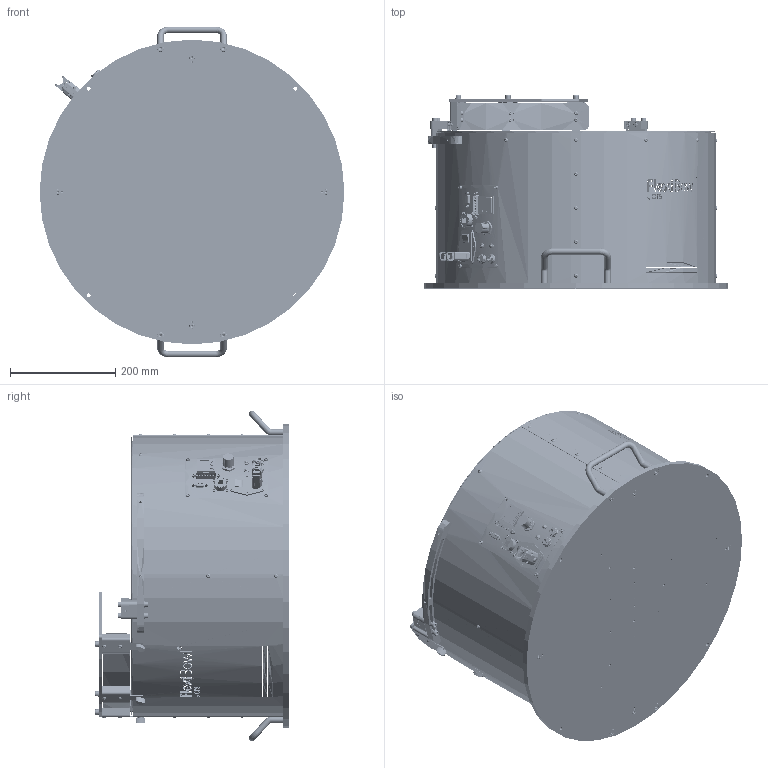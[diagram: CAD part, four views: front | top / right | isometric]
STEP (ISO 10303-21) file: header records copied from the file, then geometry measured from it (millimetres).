
FILE_DESCRIPTION (( 'STEP AP214' ), '1' );
FILE_NAME ('FB500C_E.STEP', '2021-09-09T13:16:21', ( '' ), ( '' ), 'SwSTEP 2.0', 'SolidWorks 2020', '' );
FILE_SCHEMA (( 'AUTOMOTIVE_DESIGN' ));
Length unit declared in the file: millimetre
Products named in the file (73): CM000015_002; FB500C_E; PD001739; CE000316; CM000170; PD001117; Copia di 15 poli femmina^CE000302; PD001363; PD001107; CM000024; PD001059; CM000043; PD001111; CM000051; CM000008_004; PD001433; CM000032; PD001071; Copia di connector_amet-15rs^CE000302; CM000008; CM000099; PD001736; CM000015; PD001356; CM000686_002; CM000026; CE000005; PD001362; CM000064; Copia di Led RDY_FLT^CE000326; CE000007; CM000050; Copia di 39-01-2025^CE000327; CM000478; CE000276; CM000686; PD000709; PD001360_FB500; CM000031; CM000008_003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
Assembly tree (197 placements, depth 3):
  FB500C_E
    CM000032  x4
    CM000031  x7
    CM000478  x33
    CM000050  x3
    CM000166  x8
    CM000091  x2
    CM000021  x15
    CM000170  x4
    CM000051  x4
    CM000064  x4
    CM000744  x8
    CM000024  x10
    CM000026  x10
    CM000025  x4
    CM000043  x2
    CM000006  x4
    CM000027  x3
    PD001071
    CM000001  x2
    PD001440  x4
    PD001740
    PD001739
    PD001736  x2
    PD001422
    PD001356
    PD000709
    PD001104
    PD001105
    PD001106
    PD001107
    PD001109  x3
    PD001111  x3
    PD001112
    PD001059
    PD001117
    PD001433  x2
    PD001362  x2
    PD001363  x2
    PD001120
    CM000669  x3
    PD001360_FB500
    CE000007
    CM000015  x2
      CM000015_001
      CM000015_002
    CE000276
    CE000013  x2
    CE000005
    CM000008
      CM000008_001
      CM000008_003  x2
      CM000008_002
      CM000008_004
      CM000008_005
    CE000316
    CM000686
      CM000686_001
      CM000686_002
    CM000099
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Bounding box: 580 x 368 x 628.99 mm (x, y, z)
Volume: 6695975 mm3; surface area: 3192463.3 mm2
Topology: 204 solids, 223 shells, 11216 faces, 28879 edges, 18515 vertices
Faces by surface type: plane 5702, cylinder 2585, cone 1205, bspline 1177, torus 507, sphere 40
Entity records: 402023 total; most frequent: CARTESIAN_POINT 154901, ORIENTED_EDGE 43526, DIRECTION 33939, EDGE_CURVE 21965, VERTEX_POINT 14603, AXIS2_PLACEMENT_3D 11773, LINE 10393, VECTOR 10393
